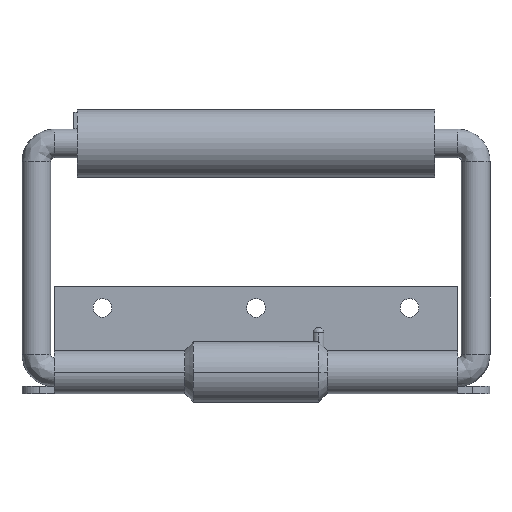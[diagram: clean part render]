
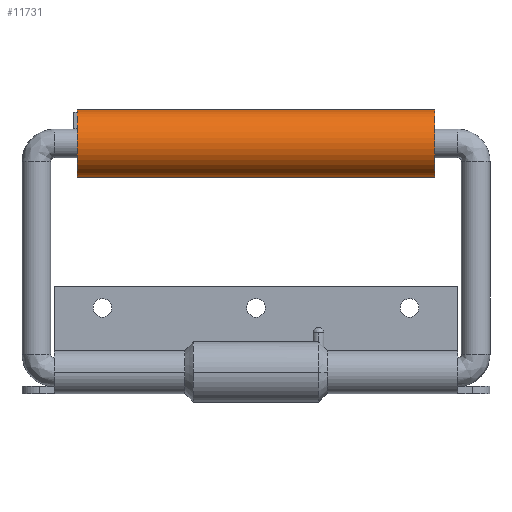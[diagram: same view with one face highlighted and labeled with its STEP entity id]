
A CAD part, top view. The second image highlights one B-rep face of the part: STEP entity #11731.
In plain terms, the highlighted cylindrical face has radius 9.5 mm (diameter 19 mm), a partial arc.
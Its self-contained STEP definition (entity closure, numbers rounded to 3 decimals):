
#105 = DIRECTION ( 'NONE',  ( 1., 0., 0. ) ) ;
#229 = LINE ( 'NONE', #16010, #17105 ) ;
#439 = LINE ( 'NONE', #17449, #4334 ) ;
#2292 = CARTESIAN_POINT ( 'NONE',  ( 100., 30.5, 67.618 ) ) ;
#3682 = VERTEX_POINT ( 'NONE', #2292 ) ;
#4044 = DIRECTION ( 'NONE',  ( 1., 0., 0. ) ) ;
#4174 = AXIS2_PLACEMENT_3D ( 'NONE', #4495, #13424, #15007 ) ;
#4334 = VECTOR ( 'NONE', #105, 1000. ) ;
#4495 = CARTESIAN_POINT ( 'NONE',  ( 100., 40., 67.618 ) ) ;
#4781 = DIRECTION ( 'NONE',  ( 1., 0., 0. ) ) ;
#5997 = CIRCLE ( 'NONE', #4174, 9.5 ) ;
#6093 = EDGE_CURVE ( 'NONE', #3682, #6145, #5997, .T. ) ;
#6145 = VERTEX_POINT ( 'NONE', #21860 ) ;
#6391 = FACE_OUTER_BOUND ( 'NONE', #7809, .T. ) ;
#6838 = DIRECTION ( 'NONE',  ( 1., 0., 0. ) ) ;
#6969 = VERTEX_POINT ( 'NONE', #7897 ) ;
#7704 = AXIS2_PLACEMENT_3D ( 'NONE', #17198, #6838, #20788 ) ;
#7751 = EDGE_CURVE ( 'NONE', #6969, #3682, #439, .T. ) ;
#7809 = EDGE_LOOP ( 'NONE', ( #10171, #16644, #16098, #16301 ) ) ;
#7897 = CARTESIAN_POINT ( 'NONE',  ( 0., 30.5, 67.618 ) ) ;
#9502 = CIRCLE ( 'NONE', #19924, 9.5 ) ;
#9553 = CYLINDRICAL_SURFACE ( 'NONE', #7704, 9.5 ) ;
#10031 = CARTESIAN_POINT ( 'NONE',  ( 0., 49.5, 67.618 ) ) ;
#10171 = ORIENTED_EDGE ( 'NONE', *, *, #14668, .F. ) ;
#10906 = CARTESIAN_POINT ( 'NONE',  ( 0., 40., 67.618 ) ) ;
#11221 = EDGE_CURVE ( 'NONE', #19978, #6969, #9502, .T. ) ;
#11731 = ADVANCED_FACE ( 'NONE', ( #6391 ), #9553, .T. ) ;
#13424 = DIRECTION ( 'NONE',  ( -1., 0., 0. ) ) ;
#14668 = EDGE_CURVE ( 'NONE', #19978, #6145, #229, .T. ) ;
#15007 = DIRECTION ( 'NONE',  ( 0., -1., 0. ) ) ;
#16010 = CARTESIAN_POINT ( 'NONE',  ( 0., 49.5, 67.618 ) ) ;
#16098 = ORIENTED_EDGE ( 'NONE', *, *, #7751, .T. ) ;
#16301 = ORIENTED_EDGE ( 'NONE', *, *, #6093, .T. ) ;
#16644 = ORIENTED_EDGE ( 'NONE', *, *, #11221, .T. ) ;
#16749 = DIRECTION ( 'NONE',  ( 0., -1., 0. ) ) ;
#17105 = VECTOR ( 'NONE', #4044, 1000. ) ;
#17198 = CARTESIAN_POINT ( 'NONE',  ( 0., 40., 67.618 ) ) ;
#17449 = CARTESIAN_POINT ( 'NONE',  ( 0., 30.5, 67.618 ) ) ;
#19924 = AXIS2_PLACEMENT_3D ( 'NONE', #10906, #4781, #16749 ) ;
#19978 = VERTEX_POINT ( 'NONE', #10031 ) ;
#20788 = DIRECTION ( 'NONE',  ( 0., -1., 0. ) ) ;
#21860 = CARTESIAN_POINT ( 'NONE',  ( 100., 49.5, 67.618 ) ) ;
